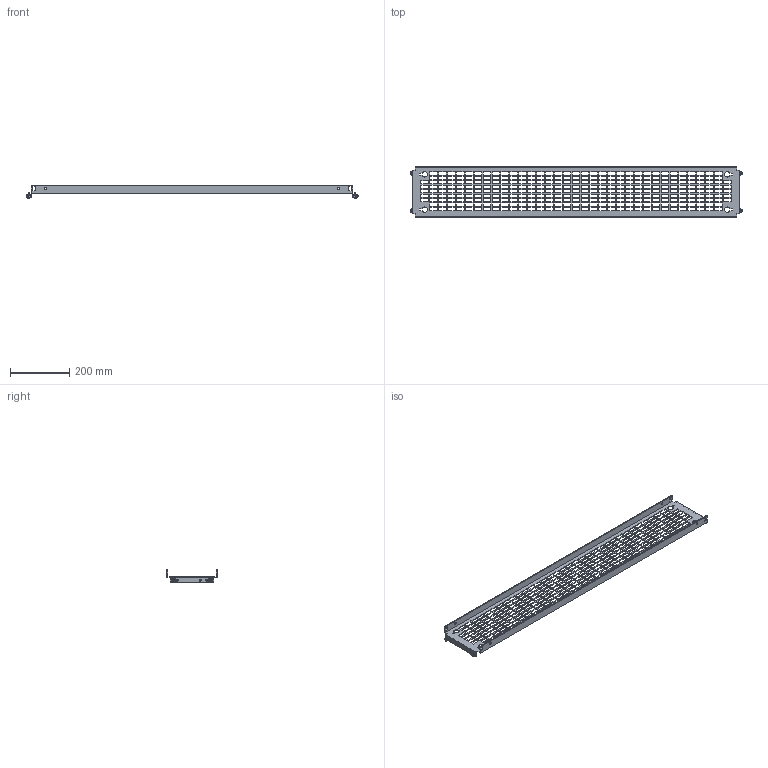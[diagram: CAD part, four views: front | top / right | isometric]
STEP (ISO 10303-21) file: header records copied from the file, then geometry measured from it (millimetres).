
FILE_DESCRIPTION(('Open CASCADE Model'),'2;1');
FILE_NAME('Open CASCADE Shape Model','2025-02-19T16:48:49',('Author'),( 'Open CASCADE'),'Open CASCADE STEP processor 7.8','Open CASCADE 7.8' ,'Unknown');
FILE_SCHEMA(('AUTOMOTIVE_DESIGN { 1 0 10303 214 1 1 1 1 }'));
Length unit declared in the file: millimetre
Products named in the file (4): Compound1; Solid1; Solid2; Solid3
Assembly tree (9 placements, depth 2):
  Compound1
    Solid1
    Solid2  x4
    Solid3  x4
Bounding box: 1119 x 169 x 42.59 mm (x, y, z)
Volume: 383889.9 mm3; surface area: 372954.4 mm2
Topology: 9 solids, 9 shells, 1583 faces, 4557 edges, 3003 vertices
Faces by surface type: plane 1410, cone 68, bspline 63, cylinder 30, torus 12
Full cylindrical faces by diameter (mm): 5 x4, 6 x8, 7 x14
Entity records: 49290 total; most frequent: CARTESIAN_POINT 9989, ORIENTED_EDGE 8436, DIRECTION 6996, EDGE_CURVE 4218, LINE 4030, VECTOR 4030, VERTEX_POINT 2805, FACE_BOUND 2095
